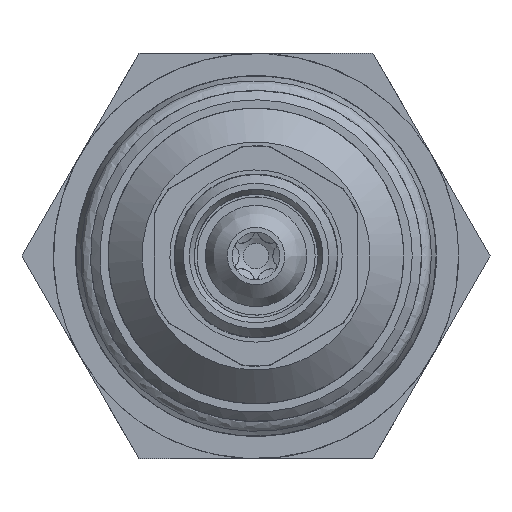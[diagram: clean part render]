
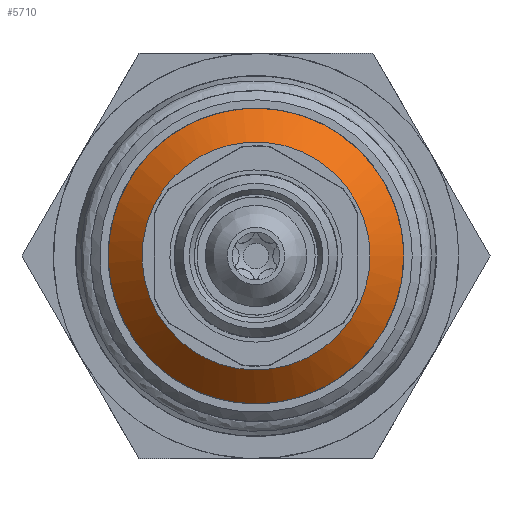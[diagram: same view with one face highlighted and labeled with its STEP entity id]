
A CAD part, front view. The second image highlights one B-rep face of the part: STEP entity #5710.
In plain terms, the highlighted free-form (B-spline) face has degree [2, 1] with [7, 2] control points.
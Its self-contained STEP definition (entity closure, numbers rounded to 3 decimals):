
#5632=CARTESIAN_POINT('V104',(8.75,-27.3,
   0.0));
#5633=VERTEX_POINT('V104',#5632);
#5639=CARTESIAN_POINT('E168',(8.75,-27.3,
   0.0));
#5640=CARTESIAN_POINT('E168',(8.75,-27.3,
   -15.155));
#5641=CARTESIAN_POINT('E168',(-4.375,-27.3,
   -7.578));
#5642=CARTESIAN_POINT('E168',(-17.5,
   -27.3,0.));
#5643=CARTESIAN_POINT('E168',(-4.375,-27.3,
   7.578));
#5644=CARTESIAN_POINT('E168',(8.75,-27.3,
   15.155));
#5645=CARTESIAN_POINT('E168',(8.75,-27.3,
   0.0));
#5653=(BOUNDED_CURVE()B_SPLINE_CURVE(2,(#5639,#5640,#5641,#5642,
   #5643,#5644,#5645),.CIRCULAR_ARC.,.T.,.U.)
   B_SPLINE_CURVE_WITH_KNOTS((3,2,2,3),(0.0,60.622,
   121.244,181.865),.UNSPECIFIED.)CURVE()
   GEOMETRIC_REPRESENTATION_ITEM()RATIONAL_B_SPLINE_CURVE((1.0,
   0.5,1.0,0.5,1.0,0.5,1.0)
   )REPRESENTATION_ITEM('E168'));
#5654=EDGE_CURVE('E168',#5633,#5633,#5653,.T.);
#5660=CARTESIAN_POINT('F78',(6.75,-29.3,
   0.0));
#5661=CARTESIAN_POINT('F78',(6.75,-29.3,
   -11.691));
#5662=CARTESIAN_POINT('F78',(-3.375,-29.3,
   -5.846));
#5663=CARTESIAN_POINT('F78',(-13.5,-29.3,
   0.));
#5664=CARTESIAN_POINT('F78',(-3.375,-29.3,
   5.846));
#5665=CARTESIAN_POINT('F78',(6.75,-29.3,
   11.691));
#5666=CARTESIAN_POINT('F78',(6.75,-29.3,
   0.0));
#5667=CARTESIAN_POINT('F78',(8.75,-27.3,
   0.0));
#5668=CARTESIAN_POINT('F78',(8.75,-27.3,
   -15.155));
#5669=CARTESIAN_POINT('F78',(-4.375,-27.3,
   -7.578));
#5670=CARTESIAN_POINT('F78',(-17.5,-27.3,
   0.));
#5671=CARTESIAN_POINT('F78',(-4.375,-27.3,
   7.578));
#5672=CARTESIAN_POINT('F78',(8.75,-27.3,
   15.155));
#5673=CARTESIAN_POINT('F78',(8.75,-27.3,
   0.0));
#5681=(BOUNDED_SURFACE()B_SPLINE_SURFACE(2,1,((#5660,#5667),(
   #5661,#5668),(#5662,#5669),(#5663,#5670),(#5664,#5671),(
   #5665,#5672),(#5666,#5673)),.CONICAL_SURF.,.T.,.F.,.U.)
   B_SPLINE_SURFACE_WITH_KNOTS((3,2,2,3),(2,2),(0.0,
   9.492,18.984,28.475),(0.0,
   1.0),.UNSPECIFIED.)GEOMETRIC_REPRESENTATION_ITEM()
   RATIONAL_B_SPLINE_SURFACE(((1.0,1.0),(0.5,
   0.5),(1.0,1.0),(0.5,
   0.5),(1.0,1.0),(0.5,
   0.5),(1.0,1.0)))REPRESENTATION_ITEM('F78')SURFACE(
   ));
#5682=CARTESIAN_POINT('V105',(6.75,-29.3,
   0.0));
#5683=VERTEX_POINT('V105',#5682);
#5684=CARTESIAN_POINT('E169',(8.75,-27.3,
   0.0));
#5685=CARTESIAN_POINT('E169',(6.75,-29.3,
   0.0));
#5686=QUASI_UNIFORM_CURVE('E169',1,(#5684,#5685),.POLYLINE_FORM.,.F.,
   .U.);
#5687=EDGE_CURVE('E169',#5633,#5683,#5686,.T.);
#5688=ORIENTED_EDGE('E169',*,*,#5687,.T.);
#5689=CARTESIAN_POINT('E170',(6.75,-29.3,
   0.0));
#5690=CARTESIAN_POINT('E170',(6.75,-29.3,
   -11.691));
#5691=CARTESIAN_POINT('E170',(-3.375,-29.3,
   -5.846));
#5692=CARTESIAN_POINT('E170',(-13.5,
   -29.3,0.));
#5693=CARTESIAN_POINT('E170',(-3.375,-29.3,
   5.846));
#5694=CARTESIAN_POINT('E170',(6.75,-29.3,
   11.691));
#5695=CARTESIAN_POINT('E170',(6.75,-29.3,
   0.0));
#5703=(BOUNDED_CURVE()B_SPLINE_CURVE(2,(#5689,#5690,#5691,#5692,
   #5693,#5694,#5695),.CIRCULAR_ARC.,.T.,.U.)
   B_SPLINE_CURVE_WITH_KNOTS((3,2,2,3),(0.0,9.492,
   18.984,28.475),.UNSPECIFIED.)CURVE()
   GEOMETRIC_REPRESENTATION_ITEM()RATIONAL_B_SPLINE_CURVE((1.0,
   0.5,1.0,0.5,1.0,0.5,1.0)
   )REPRESENTATION_ITEM('E170'));
#5704=EDGE_CURVE('E170',#5683,#5683,#5703,.T.);
#5705=ORIENTED_EDGE('E170',*,*,#5704,.T.);
#5706=ORIENTED_EDGE('E169',*,*,#5687,.F.);
#5707=ORIENTED_EDGE('E168',*,*,#5654,.F.);
#5708=EDGE_LOOP('F78',(#5688,#5705,#5706,#5707));
#5709=FACE_OUTER_BOUND('F78',#5708,.T.);
#5710=ADVANCED_FACE('F78',(#5709),#5681,.T.);
